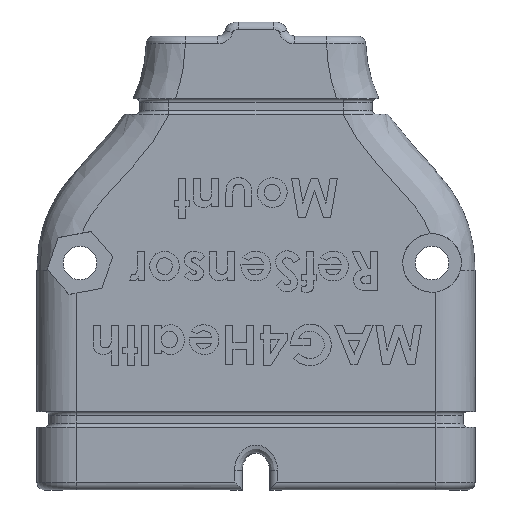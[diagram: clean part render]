
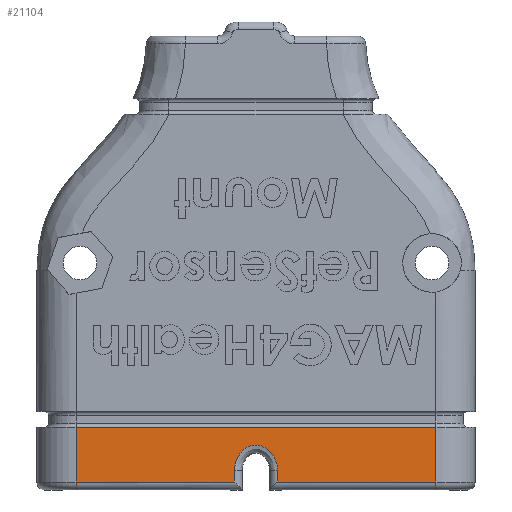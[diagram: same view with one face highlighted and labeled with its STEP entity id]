
A CAD part, top view. The second image highlights one B-rep face of the part: STEP entity #21104.
In plain terms, the highlighted planar face has unit normal (0, 0, 1).
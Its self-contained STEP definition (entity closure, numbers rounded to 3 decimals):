
#147 = CARTESIAN_POINT ( 'NONE',  ( 37., -7.022, 13.5 ) ) ;
#220 = LINE ( 'NONE', #9147, #15644 ) ;
#227 = VERTEX_POINT ( 'NONE', #466 ) ;
#364 = CARTESIAN_POINT ( 'NONE',  ( 37., -8.022, 13.5 ) ) ;
#466 = CARTESIAN_POINT ( 'NONE',  ( 16.75, -5.56, 13.5 ) ) ;
#468 = CARTESIAN_POINT ( 'NONE',  ( 15.296, -2.697, 13.5 ) ) ;
#819 = CARTESIAN_POINT ( 'NONE',  ( 12.103, -3.217, 13.5 ) ) ;
#829 = VERTEX_POINT ( 'NONE', #147 ) ;
#1232 = VERTEX_POINT ( 'NONE', #6603 ) ;
#2091 = ORIENTED_EDGE ( 'NONE', *, *, #12317, .T. ) ;
#2159 = EDGE_CURVE ( 'NONE', #4193, #4105, #10371, .T. ) ;
#2185 = VECTOR ( 'NONE', #13805, 1000. ) ;
#2532 = CARTESIAN_POINT ( 'NONE',  ( 37., 0., 13.5 ) ) ;
#2803 = LINE ( 'NONE', #6884, #2185 ) ;
#2867 = CARTESIAN_POINT ( 'NONE',  ( -9., -8.022, 13.5 ) ) ;
#3872 = CARTESIAN_POINT ( 'NONE',  ( 11.375, -4.586, 13.5 ) ) ;
#4105 = VERTEX_POINT ( 'NONE', #2532 ) ;
#4193 = VERTEX_POINT ( 'NONE', #8627 ) ;
#4219 = CARTESIAN_POINT ( 'NONE',  ( 13.796, -2.315, 13.5 ) ) ;
#4509 = EDGE_CURVE ( 'NONE', #829, #4105, #7631, .T. ) ;
#4603 = ORIENTED_EDGE ( 'NONE', *, *, #6897, .T. ) ;
#4913 = DIRECTION ( 'NONE',  ( 0., 0., 1. ) ) ;
#4965 = ORIENTED_EDGE ( 'NONE', *, *, #8375, .T. ) ;
#5750 = CARTESIAN_POINT ( 'NONE',  ( 15.46, -2.811, 13.5 ) ) ;
#5865 = CARTESIAN_POINT ( 'NONE',  ( 11.498, -4.216, 13.5 ) ) ;
#5985 = CARTESIAN_POINT ( 'NONE',  ( 12.235, -3.075, 13.5 ) ) ;
#6007 = ORIENTED_EDGE ( 'NONE', *, *, #12573, .T. ) ;
#6100 = CARTESIAN_POINT ( 'NONE',  ( 12.53, -2.819, 13.5 ) ) ;
#6217 = CARTESIAN_POINT ( 'NONE',  ( 11.266, -5.167, 13.5 ) ) ;
#6497 = DIRECTION ( 'NONE',  ( 0., -1., 0. ) ) ;
#6603 = CARTESIAN_POINT ( 'NONE',  ( 16.75, -7.022, 13.5 ) ) ;
#6619 = CARTESIAN_POINT ( 'NONE',  ( 37., 0., 13.5 ) ) ;
#6884 = CARTESIAN_POINT ( 'NONE',  ( -14., -7.022, 13.5 ) ) ;
#6897 = EDGE_CURVE ( 'NONE', #1232, #829, #2803, .T. ) ;
#7625 = CARTESIAN_POINT ( 'NONE',  ( 11.328, -4.778, 13.5 ) ) ;
#7631 = LINE ( 'NONE', #364, #12690 ) ;
#7771 = VERTEX_POINT ( 'NONE', #17904 ) ;
#8226 = LINE ( 'NONE', #13492, #22721 ) ;
#8375 = EDGE_CURVE ( 'NONE', #4193, #17710, #12342, .T. ) ;
#8627 = CARTESIAN_POINT ( 'NONE',  ( -9., 0., 13.5 ) ) ;
#9026 = CARTESIAN_POINT ( 'NONE',  ( -9., -7.022, 13.5 ) ) ;
#9147 = CARTESIAN_POINT ( 'NONE',  ( 11.25, -6.111, 13.5 ) ) ;
#9453 = B_SPLINE_CURVE_WITH_KNOTS ( 'NONE', 3,
 ( #11496, #22039, #6217, #7625, #3872, #5865, #18655, #16530, #15012, #819, #5985, #6100, #22282, #20170, #11039, #21811, #4219, #22164, #18300, #18180, #12899, #468, #5750, #9751, #9629, #18416, #16418, #20287, #13250, #13017 ),
 .UNSPECIFIED., .F., .F.,
 ( 4, 2, 2, 2, 2, 2, 2, 2, 2, 2, 2, 2, 2, 2, 4 ),
 ( 0., 0.001, 0.001, 0.002, 0.002, 0.003, 0.004, 0.004, 0.005, 0.005, 0.006, 0.006, 0.007, 0.008, 0.009 ),
 .UNSPECIFIED. ) ;
#9629 = CARTESIAN_POINT ( 'NONE',  ( 15.892, -3.21, 13.5 ) ) ;
#9751 = CARTESIAN_POINT ( 'NONE',  ( 15.757, -3.068, 13.5 ) ) ;
#9973 = DIRECTION ( 'NONE',  ( 1., 0., 0. ) ) ;
#10371 = LINE ( 'NONE', #6619, #14509 ) ;
#10935 = CARTESIAN_POINT ( 'NONE',  ( 11.25, -7.022, 13.5 ) ) ;
#11039 = CARTESIAN_POINT ( 'NONE',  ( 13.22, -2.442, 13.5 ) ) ;
#11156 = DIRECTION ( 'NONE',  ( 0., 1., 0. ) ) ;
#11496 = CARTESIAN_POINT ( 'NONE',  ( 11.25, -5.56, 13.5 ) ) ;
#11992 = DIRECTION ( 'NONE',  ( 0., 1., 0. ) ) ;
#12290 = CARTESIAN_POINT ( 'NONE',  ( -14., -8.022, 13.5 ) ) ;
#12317 = EDGE_CURVE ( 'NONE', #227, #1232, #15615, .T. ) ;
#12342 = LINE ( 'NONE', #2867, #13083 ) ;
#12573 = EDGE_CURVE ( 'NONE', #7771, #227, #9453, .T. ) ;
#12641 = EDGE_CURVE ( 'NONE', #17710, #18177, #8226, .T. ) ;
#12690 = VECTOR ( 'NONE', #11156, 1000. ) ;
#12899 = CARTESIAN_POINT ( 'NONE',  ( 14.952, -2.512, 13.5 ) ) ;
#13017 = CARTESIAN_POINT ( 'NONE',  ( 16.75, -5.56, 13.5 ) ) ;
#13083 = VECTOR ( 'NONE', #6497, 1000. ) ;
#13250 = CARTESIAN_POINT ( 'NONE',  ( 16.75, -5.164, 13.5 ) ) ;
#13492 = CARTESIAN_POINT ( 'NONE',  ( -14., -7.022, 13.5 ) ) ;
#13522 = DIRECTION ( 'NONE',  ( 0., -1., 0. ) ) ;
#13805 = DIRECTION ( 'NONE',  ( 1., 0., 0. ) ) ;
#14425 = EDGE_CURVE ( 'NONE', #18177, #7771, #220, .T. ) ;
#14509 = VECTOR ( 'NONE', #15979, 1000. ) ;
#15012 = CARTESIAN_POINT ( 'NONE',  ( 11.863, -3.524, 13.5 ) ) ;
#15505 = ORIENTED_EDGE ( 'NONE', *, *, #12641, .T. ) ;
#15615 = LINE ( 'NONE', #17368, #20834 ) ;
#15644 = VECTOR ( 'NONE', #11992, 1000. ) ;
#15811 = AXIS2_PLACEMENT_3D ( 'NONE', #12290, #4913, #19214 ) ;
#15979 = DIRECTION ( 'NONE',  ( 1., 0., 0. ) ) ;
#16418 = CARTESIAN_POINT ( 'NONE',  ( 16.44, -4.029, 13.5 ) ) ;
#16530 = CARTESIAN_POINT ( 'NONE',  ( 11.756, -3.691, 13.5 ) ) ;
#16773 = ORIENTED_EDGE ( 'NONE', *, *, #14425, .T. ) ;
#17368 = CARTESIAN_POINT ( 'NONE',  ( 16.75, -8.022, 13.5 ) ) ;
#17710 = VERTEX_POINT ( 'NONE', #9026 ) ;
#17904 = CARTESIAN_POINT ( 'NONE',  ( 11.25, -5.56, 13.5 ) ) ;
#18177 = VERTEX_POINT ( 'NONE', #10935 ) ;
#18180 = CARTESIAN_POINT ( 'NONE',  ( 14.77, -2.439, 13.5 ) ) ;
#18300 = CARTESIAN_POINT ( 'NONE',  ( 14.386, -2.339, 13.5 ) ) ;
#18416 = CARTESIAN_POINT ( 'NONE',  ( 16.257, -3.677, 13.5 ) ) ;
#18655 = CARTESIAN_POINT ( 'NONE',  ( 11.574, -4.037, 13.5 ) ) ;
#18993 = ORIENTED_EDGE ( 'NONE', *, *, #4509, .T. ) ;
#19214 = DIRECTION ( 'NONE',  ( 1., 0., 0. ) ) ;
#19504 = ORIENTED_EDGE ( 'NONE', *, *, #2159, .F. ) ;
#19667 = PLANE ( 'NONE',  #15811 ) ;
#19723 = EDGE_LOOP ( 'NONE', ( #18993, #19504, #4965, #15505, #16773, #6007, #2091, #4603 ) ) ;
#20170 = CARTESIAN_POINT ( 'NONE',  ( 13.037, -2.516, 13.5 ) ) ;
#20287 = CARTESIAN_POINT ( 'NONE',  ( 16.687, -4.776, 13.5 ) ) ;
#20834 = VECTOR ( 'NONE', #13522, 1000. ) ;
#20975 = FACE_OUTER_BOUND ( 'NONE', #19723, .T. ) ;
#21104 = ADVANCED_FACE ( 'NONE', ( #20975 ), #19667, .T. ) ;
#21811 = CARTESIAN_POINT ( 'NONE',  ( 13.602, -2.341, 13.5 ) ) ;
#22039 = CARTESIAN_POINT ( 'NONE',  ( 11.25, -5.362, 13.5 ) ) ;
#22164 = CARTESIAN_POINT ( 'NONE',  ( 14.188, -2.314, 13.5 ) ) ;
#22282 = CARTESIAN_POINT ( 'NONE',  ( 12.693, -2.704, 13.5 ) ) ;
#22721 = VECTOR ( 'NONE', #9973, 1000. ) ;
